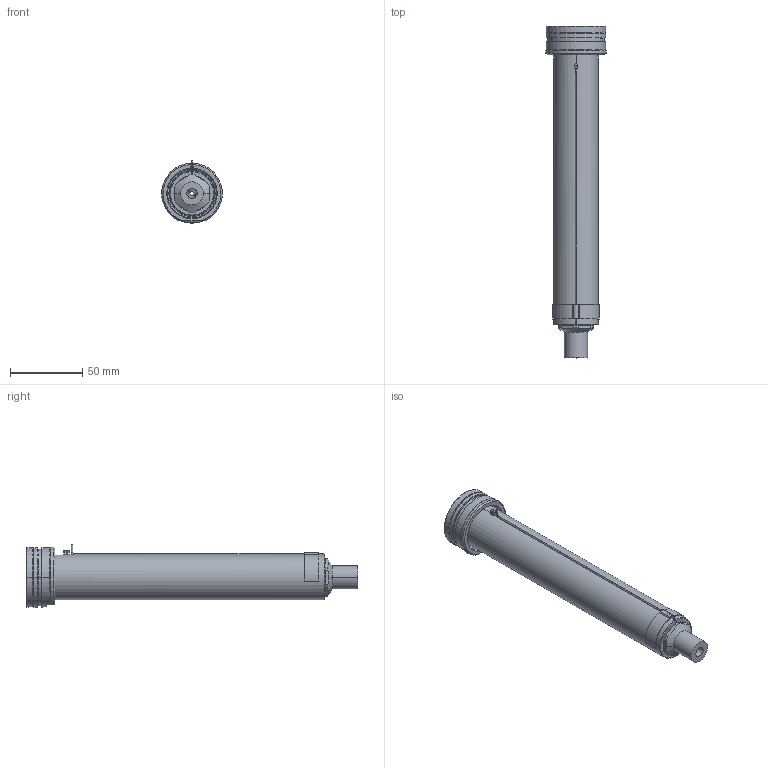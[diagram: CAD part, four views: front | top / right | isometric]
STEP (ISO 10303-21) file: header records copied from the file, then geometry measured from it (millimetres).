
FILE_DESCRIPTION((''),'2;1');
FILE_NAME('EO12_SG_ESG_200_SW','2024-02-19T12:31:51',('sundharh'),(''),'CREO PARAMETRIC BY PTC INC, 2023154','CREO PARAMETRIC BY PTC INC, 2023154','');
FILE_SCHEMA(('CONFIG_CONTROL_DESIGN'));
Length unit declared in the file: millimetre
Products named in the file (1): EO12_SG_ESG_200_SW
Bounding box: 41.85 x 230 x 43 mm (x, y, z)
Volume: 147082 mm3; surface area: 37396.1 mm2
Topology: 2 solids, 3 shells, 176 faces, 438 edges, 266 vertices
Faces by surface type: cylinder 65, plane 45, cone 33, torus 27, sphere 3, bspline 3
Entity records: 5963 total; most frequent: CARTESIAN_POINT 1683, DIRECTION 948, ORIENTED_EDGE 864, EDGE_CURVE 432, AXIS2_PLACEMENT_3D 396, VERTEX_POINT 266, CIRCLE 223, EDGE_LOOP 192
